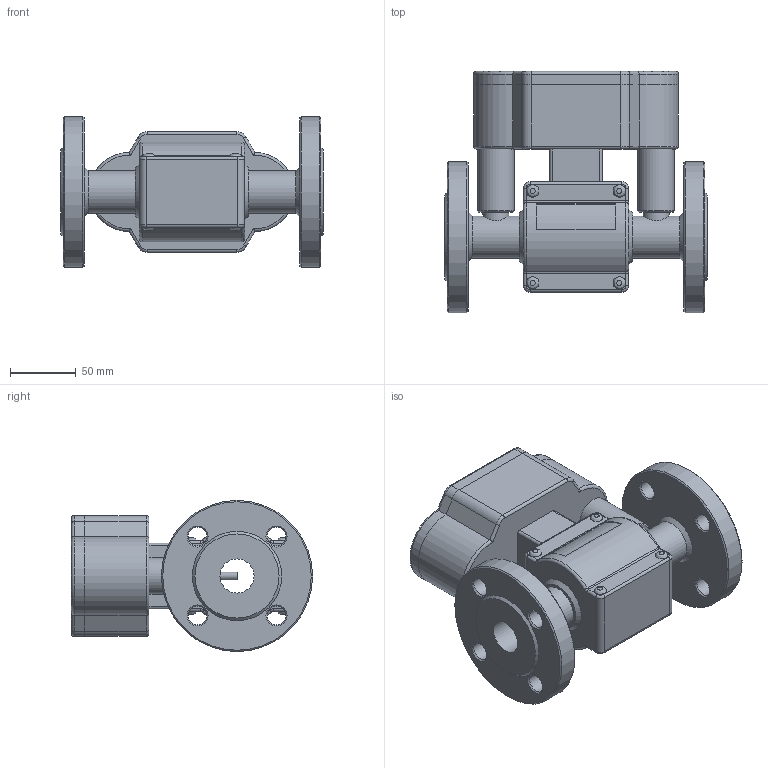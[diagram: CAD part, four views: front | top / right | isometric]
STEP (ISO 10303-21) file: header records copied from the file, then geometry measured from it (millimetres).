
FILE_DESCRIPTION(('STEP AP214'), '1');
FILE_NAME('25 È6', '2015-07-24T11:40:37', (''), (''), 'ASCON STEP Converter 1.3', 'ASCON Math Kernel', '');
FILE_SCHEMA(('AUTOMOTIVE_DESIGN { 1 0 10303 214 3 1 1}'));
Length unit declared in the file: millimetre
Products named in the file (1): 1
Bounding box: 200 x 183.5 x 115 mm (x, y, z)
Volume: 1493942.9 mm3; surface area: 186142 mm2
Topology: 2 solids, 2 shells, 490 faces, 1260 edges, 810 vertices
Faces by surface type: cylinder 244, plane 174, torus 32, cone 32, bspline 8
Full cylindrical faces by diameter (mm): 6 x1, 7 x4, 14 x8, 20 x2, 26 x1, 28 x2, 32 x2, 115 x2
Entity records: 21879 total; most frequent: CARTESIAN_POINT 6079, DIRECTION 2696, ORIENTED_EDGE 2392, EDGE_CURVE 1196, AXIS2_PLACEMENT_3D 1048, VERTEX_POINT 810, EDGE_LOOP 612, LINE 600
